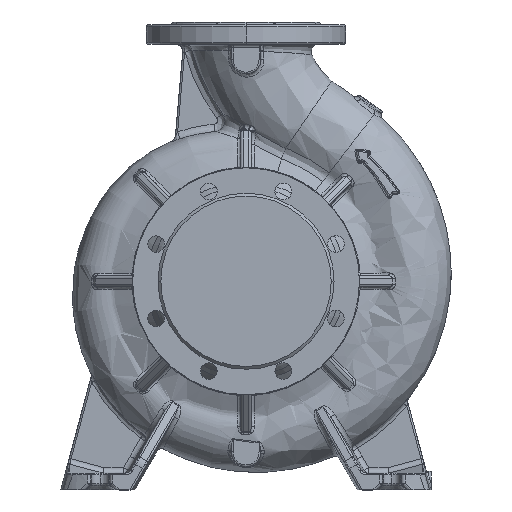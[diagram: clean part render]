
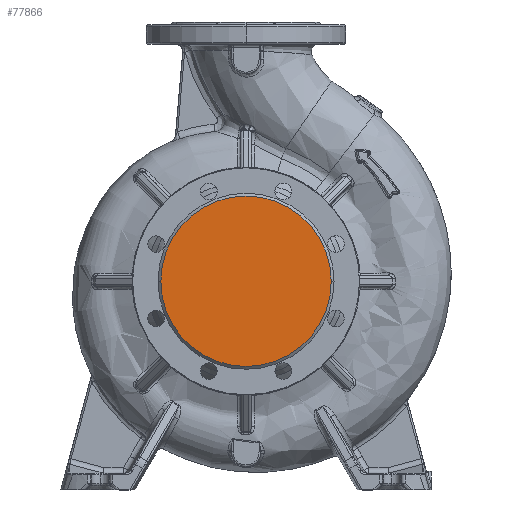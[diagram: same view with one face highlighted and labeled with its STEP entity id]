
A CAD part, top view. The second image highlights one B-rep face of the part: STEP entity #77866.
In plain terms, the highlighted planar face has unit normal (0, 0, 1).
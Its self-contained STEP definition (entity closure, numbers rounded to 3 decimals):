
#1915 = CARTESIAN_POINT ( 'NONE',  ( 92., 0., 125. ) ) ;
#8098 = FACE_OUTER_BOUND ( 'NONE', #45113, .T. ) ;
#10667 = DIRECTION ( 'NONE',  ( 0., 0., -1. ) ) ;
#11747 = EDGE_CURVE ( 'NONE', #40304, #71627, #44103, .T. ) ;
#15745 = DIRECTION ( 'NONE',  ( -1., 0., 0. ) ) ;
#24940 = CARTESIAN_POINT ( 'NONE',  ( -92., 0., 125. ) ) ;
#34024 = DIRECTION ( 'NONE',  ( -1., 0., 0. ) ) ;
#40304 = VERTEX_POINT ( 'NONE', #1915 ) ;
#44103 = CIRCLE ( 'NONE', #72502, 92. ) ;
#45113 = EDGE_LOOP ( 'NONE', ( #51334, #72175 ) ) ;
#45704 = CIRCLE ( 'NONE', #70892, 92. ) ;
#51034 = CARTESIAN_POINT ( 'NONE',  ( 0., 0., 125. ) ) ;
#51334 = ORIENTED_EDGE ( 'NONE', *, *, #71501, .F. ) ;
#53450 = PLANE ( 'NONE',  #55507 ) ;
#54025 = CARTESIAN_POINT ( 'NONE',  ( 0., 0., 125. ) ) ;
#55507 = AXIS2_PLACEMENT_3D ( 'NONE', #54025, #80393, #34024 ) ;
#57165 = DIRECTION ( 'NONE',  ( -1., 0., 0. ) ) ;
#61959 = CARTESIAN_POINT ( 'NONE',  ( 0., 0., 125. ) ) ;
#70892 = AXIS2_PLACEMENT_3D ( 'NONE', #51034, #10667, #57165 ) ;
#71501 = EDGE_CURVE ( 'NONE', #71627, #40304, #45704, .T. ) ;
#71627 = VERTEX_POINT ( 'NONE', #24940 ) ;
#72175 = ORIENTED_EDGE ( 'NONE', *, *, #11747, .F. ) ;
#72502 = AXIS2_PLACEMENT_3D ( 'NONE', #61959, #74708, #15745 ) ;
#74708 = DIRECTION ( 'NONE',  ( 0., 0., -1. ) ) ;
#77866 = ADVANCED_FACE ( 'NONE', ( #8098 ), #53450, .F. ) ;
#80393 = DIRECTION ( 'NONE',  ( 0., 0., -1. ) ) ;
